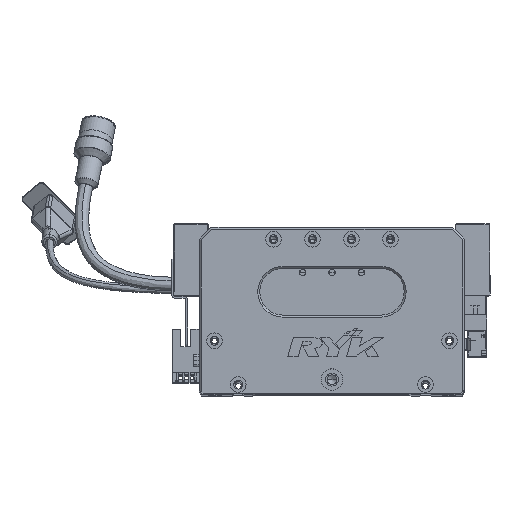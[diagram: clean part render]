
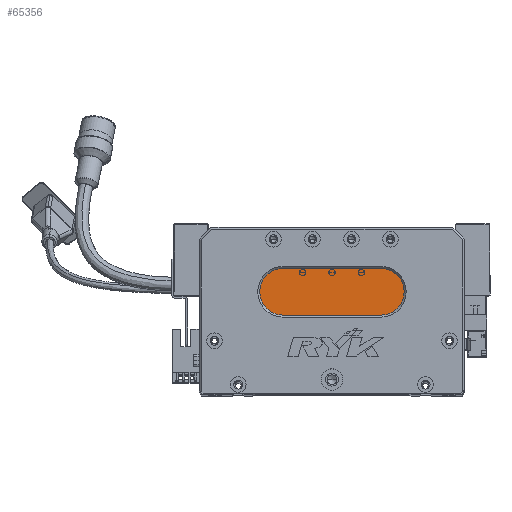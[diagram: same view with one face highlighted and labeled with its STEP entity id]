
A CAD part, top view. The second image highlights one B-rep face of the part: STEP entity #65356.
In plain terms, the highlighted planar face has unit normal (0, 0, 1) as drawn and (0, 0, -1) by its records, which use the part's own axes.
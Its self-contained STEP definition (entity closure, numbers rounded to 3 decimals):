
#325 = CARTESIAN_POINT ( 'NONE',  ( 93., 40., 13. ) ) ;
#2946 = CARTESIAN_POINT ( 'NONE',  ( 93., 64., 13. ) ) ;
#3430 = DIRECTION ( 'NONE',  ( -1., 0., 0. ) ) ;
#6177 = DIRECTION ( 'NONE',  ( -1., 0., 0. ) ) ;
#6845 = ORIENTED_EDGE ( 'NONE', *, *, #54648, .T. ) ;
#8207 = DIRECTION ( 'NONE',  ( 1., 0., 0. ) ) ;
#10162 = CARTESIAN_POINT ( 'NONE',  ( 93., 64., 13. ) ) ;
#10864 = EDGE_CURVE ( 'NONE', #13357, #56020, #29878, .T. ) ;
#12332 = CARTESIAN_POINT ( 'NONE',  ( 93., 52., 13. ) ) ;
#13357 = VERTEX_POINT ( 'NONE', #28987 ) ;
#14194 = VERTEX_POINT ( 'NONE', #44112 ) ;
#14579 = CIRCLE ( 'NONE', #54870, 12. ) ;
#15786 = ORIENTED_EDGE ( 'NONE', *, *, #69691, .T. ) ;
#17454 = DIRECTION ( 'NONE',  ( 0., 0., -1. ) ) ;
#22244 = EDGE_LOOP ( 'NONE', ( #58789, #6845, #25923, #15786, #33040 ) ) ;
#22541 = CARTESIAN_POINT ( 'NONE',  ( 93., 52., 13. ) ) ;
#22608 = AXIS2_PLACEMENT_3D ( 'NONE', #53873, #26517, #3430 ) ;
#25299 = EDGE_CURVE ( 'NONE', #14194, #51006, #30074, .T. ) ;
#25923 = ORIENTED_EDGE ( 'NONE', *, *, #10864, .T. ) ;
#26517 = DIRECTION ( 'NONE',  ( 0., 0., -1. ) ) ;
#26739 = CARTESIAN_POINT ( 'NONE',  ( 31., 52., 13. ) ) ;
#27074 = VECTOR ( 'NONE', #54087, 1000. ) ;
#27399 = VECTOR ( 'NONE', #8207, 1000. ) ;
#28987 = CARTESIAN_POINT ( 'NONE',  ( 43., 40., 13. ) ) ;
#29377 = CIRCLE ( 'NONE', #22608, 12. ) ;
#29878 = CIRCLE ( 'NONE', #54365, 12. ) ;
#30074 = LINE ( 'NONE', #10162, #27399 ) ;
#30726 = CARTESIAN_POINT ( 'NONE',  ( 43., 52., 13. ) ) ;
#31299 = EDGE_CURVE ( 'NONE', #51006, #54077, #14579, .T. ) ;
#33040 = ORIENTED_EDGE ( 'NONE', *, *, #25299, .T. ) ;
#34737 = DIRECTION ( 'NONE',  ( -1., 0., 0. ) ) ;
#35914 = LINE ( 'NONE', #64431, #27074 ) ;
#38832 = PLANE ( 'NONE',  #59734 ) ;
#44112 = CARTESIAN_POINT ( 'NONE',  ( 43., 64., 13. ) ) ;
#45196 = DIRECTION ( 'NONE',  ( 0., 0., -1. ) ) ;
#51006 = VERTEX_POINT ( 'NONE', #2946 ) ;
#53873 = CARTESIAN_POINT ( 'NONE',  ( 43., 52., 13. ) ) ;
#54077 = VERTEX_POINT ( 'NONE', #325 ) ;
#54087 = DIRECTION ( 'NONE',  ( -1., 0., 0. ) ) ;
#54365 = AXIS2_PLACEMENT_3D ( 'NONE', #30726, #17454, #6177 ) ;
#54648 = EDGE_CURVE ( 'NONE', #54077, #13357, #35914, .T. ) ;
#54870 = AXIS2_PLACEMENT_3D ( 'NONE', #12332, #61064, #34737 ) ;
#56020 = VERTEX_POINT ( 'NONE', #26739 ) ;
#57017 = DIRECTION ( 'NONE',  ( -1., 0., 0. ) ) ;
#58789 = ORIENTED_EDGE ( 'NONE', *, *, #31299, .T. ) ;
#59734 = AXIS2_PLACEMENT_3D ( 'NONE', #22541, #45196, #57017 ) ;
#61064 = DIRECTION ( 'NONE',  ( 0., 0., -1. ) ) ;
#64431 = CARTESIAN_POINT ( 'NONE',  ( 93., 40., 13. ) ) ;
#65356 = ADVANCED_FACE ( 'NONE', ( #68621 ), #38832, .T. ) ;
#68621 = FACE_OUTER_BOUND ( 'NONE', #22244, .T. ) ;
#69691 = EDGE_CURVE ( 'NONE', #56020, #14194, #29377, .T. ) ;
